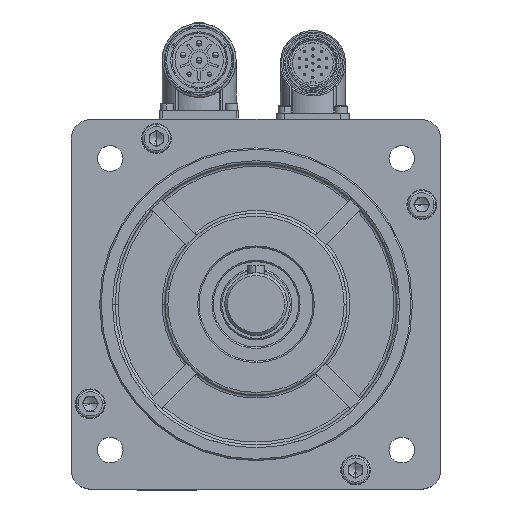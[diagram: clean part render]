
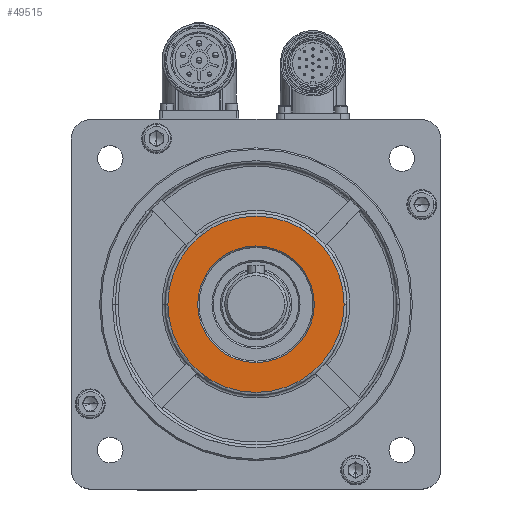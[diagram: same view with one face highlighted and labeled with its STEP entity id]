
A CAD part, top view. The second image highlights one B-rep face of the part: STEP entity #49515.
In plain terms, the highlighted planar face has unit normal (0, 0, 1).
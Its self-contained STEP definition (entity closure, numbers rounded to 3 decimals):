
#4125 = CARTESIAN_POINT ( 'NONE',  ( -58.113, -58.113, 30.5 ) ) ;
#4603 = CARTESIAN_POINT ( 'NONE',  ( 0., 0., 30.5 ) ) ;
#5828 = EDGE_CURVE ( 'NONE', #39865, #59414, #58636, .T. ) ;
#10465 = DIRECTION ( 'NONE',  ( -1., 0., 0. ) ) ;
#16822 = CARTESIAN_POINT ( 'NONE',  ( -31., 0., 30.5 ) ) ;
#17357 = CARTESIAN_POINT ( 'NONE',  ( 0., 0., 30.5 ) ) ;
#18067 = AXIS2_PLACEMENT_3D ( 'NONE', #54302, #43994, #10465 ) ;
#18396 = CARTESIAN_POINT ( 'NONE',  ( 20.5, 0., 30.5 ) ) ;
#18405 = ORIENTED_EDGE ( 'NONE', *, *, #5828, .T. ) ;
#19739 = EDGE_CURVE ( 'NONE', #59414, #39865, #57758, .T. ) ;
#20553 = DIRECTION ( 'NONE',  ( 0., 0., -1. ) ) ;
#20646 = ORIENTED_EDGE ( 'NONE', *, *, #19739, .T. ) ;
#23795 = DIRECTION ( 'NONE',  ( -1., 0., 0. ) ) ;
#25992 = CARTESIAN_POINT ( 'NONE',  ( 31., 0., 30.5 ) ) ;
#26849 = FACE_BOUND ( 'NONE', #55346, .T. ) ;
#31947 = DIRECTION ( 'NONE',  ( 0., 0., 1. ) ) ;
#38531 = DIRECTION ( 'NONE',  ( 0., 0., -1. ) ) ;
#39865 = VERTEX_POINT ( 'NONE', #58911 ) ;
#41498 = EDGE_CURVE ( 'NONE', #59835, #53181, #52102, .T. ) ;
#41997 = FACE_OUTER_BOUND ( 'NONE', #59991, .T. ) ;
#43994 = DIRECTION ( 'NONE',  ( 0., 0., 1. ) ) ;
#44024 = AXIS2_PLACEMENT_3D ( 'NONE', #49597, #20553, #59284 ) ;
#44090 = AXIS2_PLACEMENT_3D ( 'NONE', #4603, #38531, #57944 ) ;
#49515 = ADVANCED_FACE ( 'NONE', ( #41997, #26849 ), #57470, .F. ) ;
#49597 = CARTESIAN_POINT ( 'NONE',  ( 0., 0., 30.5 ) ) ;
#49851 = CIRCLE ( 'NONE', #18067, 31. ) ;
#51218 = DIRECTION ( 'NONE',  ( -1., 0., 0. ) ) ;
#52102 = CIRCLE ( 'NONE', #56140, 31. ) ;
#53181 = VERTEX_POINT ( 'NONE', #25992 ) ;
#54302 = CARTESIAN_POINT ( 'NONE',  ( 0., 0., 30.5 ) ) ;
#54986 = ORIENTED_EDGE ( 'NONE', *, *, #62669, .T. ) ;
#55346 = EDGE_LOOP ( 'NONE', ( #20646, #18405 ) ) ;
#56140 = AXIS2_PLACEMENT_3D ( 'NONE', #17357, #31947, #51218 ) ;
#57470 = PLANE ( 'NONE',  #58379 ) ;
#57758 = CIRCLE ( 'NONE', #44090, 20.5 ) ;
#57944 = DIRECTION ( 'NONE',  ( -1., 0., 0. ) ) ;
#58379 = AXIS2_PLACEMENT_3D ( 'NONE', #4125, #62544, #23795 ) ;
#58636 = CIRCLE ( 'NONE', #44024, 20.5 ) ;
#58911 = CARTESIAN_POINT ( 'NONE',  ( -20.5, 0., 30.5 ) ) ;
#59284 = DIRECTION ( 'NONE',  ( -1., 0., 0. ) ) ;
#59414 = VERTEX_POINT ( 'NONE', #18396 ) ;
#59835 = VERTEX_POINT ( 'NONE', #16822 ) ;
#59991 = EDGE_LOOP ( 'NONE', ( #61473, #54986 ) ) ;
#61473 = ORIENTED_EDGE ( 'NONE', *, *, #41498, .T. ) ;
#62544 = DIRECTION ( 'NONE',  ( 0., 0., -1. ) ) ;
#62669 = EDGE_CURVE ( 'NONE', #53181, #59835, #49851, .T. ) ;
